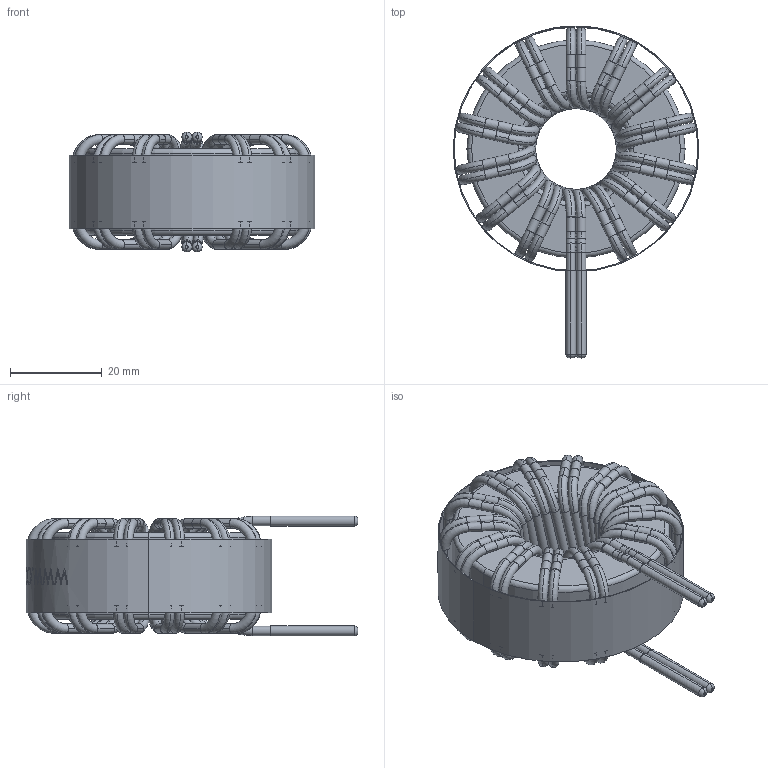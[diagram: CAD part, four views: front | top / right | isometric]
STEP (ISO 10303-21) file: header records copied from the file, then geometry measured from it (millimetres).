
FILE_DESCRIPTION (( 'STEP AP214' ), '1' );
FILE_NAME ('HF467-260M-45AV.STEP', '2021-05-08T07:25:19', ( '' ), ( '' ), 'SwSTEP 2.0', 'SolidWorks 2015', '' );
FILE_SCHEMA (( 'AUTOMOTIVE_DESIGN' ));
Length unit declared in the file: millimetre
Products named in the file (4): HF467-260M-45AV; CORE; WINDING; WRAPPER
Assembly tree (3 placements, depth 2):
  HF467-260M-45AV
    CORE
    WINDING
    WRAPPER
Bounding box: 53.65 x 72.47 x 26.2 mm (x, y, z)
Volume: 32609.3 mm3; surface area: 25232.6 mm2
Topology: 38 solids, 38 shells, 786 faces, 2050 edges, 1356 vertices
Faces by surface type: cylinder 324, torus 248, plane 111, bspline 103
Entity records: 42013 total; most frequent: CARTESIAN_POINT 14437, DIRECTION 4482, ORIENTED_EDGE 4100, AXIS2_PLACEMENT_3D 2077, EDGE_CURVE 2050, CIRCLE 1388, VERTEX_POINT 1356, EDGE_LOOP 806
